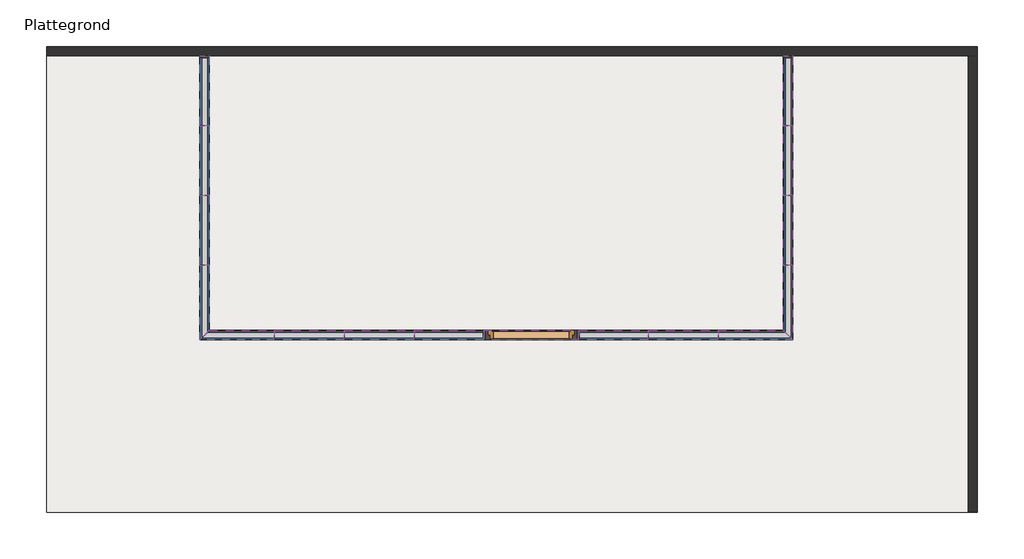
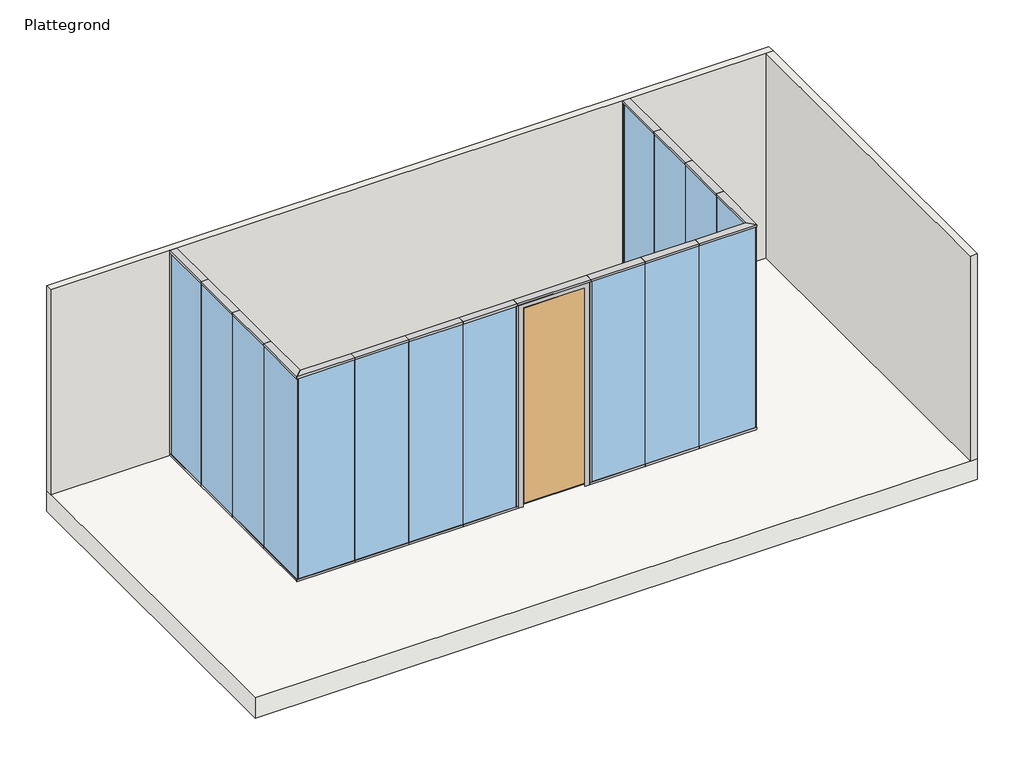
# One storey: 36 members, 30 windows, 2 walls, 1 door, 1 slab.
"""IFC4 building model written with IfcOpenShell, lengths in millimetres."""

from ifc_helpers import new_model, si_unit, frame, origin, origin_with_axes, place, context, project, spatial, polyline, outline, extrude, faceted_brep, transform, mapped, element, save
from components import door_3c762eaf, member_c15710f9, rectangular_mullion_22_im_twin_50_det1_boven_32mm_f8496065, rectangular_mullion_22_im_twin_50_det1_boven_32mm_feee0dc3, rectangular_mullion_22_im_twin_50_det1_boven_32mm_ebdecf88, rectangular_mullion_22_im_twin_50_det1_boven_32mm_71473a51, rectangular_mullion_22_im_twin_50_det2_onder_32mm_36c16b13, rectangular_mullion_22_im_twin_50_det2_onder_32mm_dabcd18b, rectangular_mullion_22_im_twin_50_det2_onder_32mm_cb34f278, rectangular_mullion_22_im_twin_50_mas_22e90203, rectangular_mullion_22_im_twin_50_mas_251ff0a0, rectangular_mullion_22_im_twin_50_mas_sp_229efe52, window_32_im_002_hgs_twin_32_im_002_hgs_twin_26124155, window_32_im_002_hgs_twin_32_im_002_hgs_twin_339a3455, window_32_im_002_hgs_twin_32_im_002_hgs_twin_ac9f17fd, window_32_im_002_hgs_twin_32_im_002_hgs_twin_a99c4260, window_32_im_002_hgs_twin_32_im_002_hgs_twin_18a0c5fa, window_32_im_002_hgs_twin_32_im_002_hgs_twin_0d112f5a, window_32_im_002_hgs_twin_32_im_002_hgs_twin_786c4ea9, window_32_im_002_hgs_twin_32_im_002_hgs_twin_41e00810, window_32_im_002_hgs_twin_32_im_002_hgs_twin_b3315b9b, window_32_im_002_hgs_twin_32_im_002_hgs_twin_9756e7ce, window_32_im_002_hgs_twin_32_im_002_hgs_twin_de3dee43, window_32_im_002_hgs_twin_32_im_002_hgs_twin_07a8b9dd, window_32_im_002_hgs_twin_32_im_002_hgs_twin_58e16ffb, window_32_im_002_hgs_twin_32_im_002_hgs_twin_d93e67b0

model = new_model("IFC4")

# Units and contexts
model_context = context("Model", 3, world=origin())
ifc_project = project(units=[si_unit("LENGTHUNIT", "METRE", prefix="MILLI")], contexts=[model_context])

# Site, building, storey
site = spatial("IfcSite", under=ifc_project)
building = spatial("IfcBuilding", under=site)
storey = spatial("IfcBuildingStorey", under=building, Name="Plattegrond", Elevation=0.0)

# Door
placement = place(None, origin())
door_shape = door_3c762eaf(model_context)
element("IfcDoor", 1, ObjectType="32_IM_deurpaneel_TDG : 32_IM_deurpaneel_TDG_L", at=placement, inside=storey, context=model_context, shape_type="MappedRepresentation", body=[
    mapped(door_shape, transform((5046.9450275, 2127.5863222, 0.0), x_axis=(1.0, 0.0, 0.0), y_axis=(0.0, 1.0, 0.0), z_axis=(0.0, 0.0, 1.0))),
])

# Members
member_shape = member_c15710f9(model_context)
element("IfcMember", 2, ObjectType="32_IM_005_TDG_deurkozijn : 32_IM_005_TDG_deurkozijn", at=placement, inside=storey, context=model_context, shape_type="MappedRepresentation", body=[
    mapped(member_shape, transform((5046.9450275, 2127.5863222, 1489.0), x_axis=(0.0, 0.0, -1.0), y_axis=(1.0, 0.0, 0.0), z_axis=(0.0, -1.0, 0.0))),
])
rectangular_mullion_22_im_twin_50_det1_boven_32mm_shape = rectangular_mullion_22_im_twin_50_det1_boven_32mm_f8496065(model_context)
element("IfcMember", 3, ObjectType="Rectangular Mullion : 22_IM_TWIN_50_DET1_boven_32mm", at=placement, inside=storey, context=model_context, shape_type="MappedRepresentation", body=[
    mapped(rectangular_mullion_22_im_twin_50_det1_boven_32mm_shape, transform((1537.9353409, 3627.5863222, 3000.0), x_axis=(0.0, 0.0, 1.0), y_axis=(-1.0, 0.0, 0.0), z_axis=(0.0, -1.0, 0.0))),
])
element("IfcMember", 4, ObjectType="Rectangular Mullion : 22_IM_TWIN_50_DET1_boven_32mm", at=placement, inside=storey, context=model_context, shape_type="MappedRepresentation", body=[
    mapped(rectangular_mullion_22_im_twin_50_det1_boven_32mm_shape, transform((1537.9353409, 2877.5863222, 3000.0), x_axis=(0.0, 0.0, 1.0), y_axis=(-1.0, 0.0, 0.0), z_axis=(0.0, -1.0, 0.0))),
])
element("IfcMember", 5, ObjectType="Rectangular Mullion : 22_IM_TWIN_50_DET1_boven_32mm", at=placement, inside=storey, context=model_context, shape_type="MappedRepresentation", body=[
    mapped(rectangular_mullion_22_im_twin_50_det1_boven_32mm_shape, transform((3037.9450275, 2127.5863222, 3000.0), x_axis=(0.0, 0.0, 1.0), y_axis=(0.0, -1.0, 0.0), z_axis=(1.0, 0.0, 0.0))),
])
element("IfcMember", 6, ObjectType="Rectangular Mullion : 22_IM_TWIN_50_DET1_boven_32mm", at=placement, inside=storey, context=model_context, shape_type="MappedRepresentation", body=[
    mapped(rectangular_mullion_22_im_twin_50_det1_boven_32mm_shape, transform((3787.9450275, 2127.5863222, 3000.0), x_axis=(0.0, 0.0, 1.0), y_axis=(0.0, -1.0, 0.0), z_axis=(1.0, 0.0, 0.0))),
])
element("IfcMember", 7, ObjectType="Rectangular Mullion : 22_IM_TWIN_50_DET1_boven_32mm", at=placement, inside=storey, context=model_context, shape_type="MappedRepresentation", body=[
    mapped(rectangular_mullion_22_im_twin_50_det1_boven_32mm_shape, transform((7055.9450275, 2127.5863222, 3000.0), x_axis=(0.0, 0.0, 1.0), y_axis=(0.0, -1.0, 0.0), z_axis=(1.0, 0.0, 0.0))),
])
element("IfcMember", 8, ObjectType="Rectangular Mullion : 22_IM_TWIN_50_DET1_boven_32mm", at=placement, inside=storey, context=model_context, shape_type="MappedRepresentation", body=[
    mapped(rectangular_mullion_22_im_twin_50_det1_boven_32mm_shape, transform((7805.9353409, 3627.5863222, 3000.0), x_axis=(0.0, 0.0, 1.0), y_axis=(1.0, 0.0, 0.0), z_axis=(0.0, 1.0, 0.0))),
])
element("IfcMember", 9, ObjectType="Rectangular Mullion : 22_IM_TWIN_50_DET1_boven_32mm", at=placement, inside=storey, context=model_context, shape_type="MappedRepresentation", body=[
    mapped(rectangular_mullion_22_im_twin_50_det1_boven_32mm_shape, transform((7805.9353409, 4377.5863222, 3000.0), x_axis=(0.0, 0.0, 1.0), y_axis=(1.0, 0.0, 0.0), z_axis=(0.0, 1.0, 0.0))),
])
element("IfcMember", 10, ObjectType="Rectangular Mullion : 22_IM_TWIN_50_DET1_boven_32mm", at=placement, inside=storey, context=model_context, shape_type="MappedRepresentation", body=[
    mapped(rectangular_mullion_22_im_twin_50_det1_boven_32mm_shape, transform((1537.9353409, 4377.5863222, 3000.0), x_axis=(0.0, 0.0, 1.0), y_axis=(-1.0, 0.0, 0.0), z_axis=(0.0, -1.0, 0.0))),
])
element("IfcMember", 11, ObjectType="Rectangular Mullion : 22_IM_TWIN_50_DET1_boven_32mm", at=placement, inside=storey, context=model_context, shape_type="MappedRepresentation", body=[
    mapped(rectangular_mullion_22_im_twin_50_det1_boven_32mm_shape, transform((7805.9353409, 5127.5863222, 3000.0), x_axis=(0.0, 0.0, 1.0), y_axis=(1.0, 0.0, 0.0), z_axis=(0.0, 1.0, 0.0))),
])
element("IfcMember", 12, ObjectType="Rectangular Mullion : 22_IM_TWIN_50_DET1_boven_32mm", at=placement, inside=storey, context=model_context, shape_type="MappedRepresentation", body=[
    mapped(rectangular_mullion_22_im_twin_50_det1_boven_32mm_shape, transform((4537.9450275, 2127.5863222, 3000.0), x_axis=(0.0, 0.0, 1.0), y_axis=(0.0, -1.0, 0.0), z_axis=(1.0, 0.0, 0.0))),
])
rectangular_mullion_22_im_twin_50_det1_boven_32mm_2_shape = rectangular_mullion_22_im_twin_50_det1_boven_32mm_feee0dc3(model_context)
element("IfcMember", 13, ObjectType="Rectangular Mullion : 22_IM_TWIN_50_DET1_boven_32mm", at=placement, inside=storey, context=model_context, shape_type="MappedRepresentation", body=[
    mapped(rectangular_mullion_22_im_twin_50_det1_boven_32mm_2_shape, transform((5555.9450275, 2127.5863222, 3000.0), x_axis=(0.0, 0.0, 1.0), y_axis=(0.0, -1.0, 0.0), z_axis=(1.0, 0.0, 0.0))),
])
element("IfcMember", 14, ObjectType="Rectangular Mullion : 22_IM_TWIN_50_DET1_boven_32mm", at=placement, inside=storey, context=model_context, shape_type="MappedRepresentation", body=[
    mapped(rectangular_mullion_22_im_twin_50_det1_boven_32mm_shape, transform((6305.9450275, 2127.5863222, 3000.0), x_axis=(0.0, 0.0, 1.0), y_axis=(0.0, -1.0, 0.0), z_axis=(1.0, 0.0, 0.0))),
])
rectangular_mullion_22_im_twin_50_det1_boven_32mm_3_shape = rectangular_mullion_22_im_twin_50_det1_boven_32mm_ebdecf88(model_context)
element("IfcMember", 15, ObjectType="Rectangular Mullion : 22_IM_TWIN_50_DET1_boven_32mm", at=placement, inside=storey, context=model_context, shape_type="MappedRepresentation", body=[
    mapped(rectangular_mullion_22_im_twin_50_det1_boven_32mm_3_shape, transform((1537.9353409, 2127.5863222, 3000.0), x_axis=(0.0, 0.0, 1.0), y_axis=(-1.0, 0.0, 0.0), z_axis=(0.0, -1.0, 0.0))),
])
element("IfcMember", 16, ObjectType="Rectangular Mullion : 22_IM_TWIN_50_DET1_boven_32mm", at=placement, inside=storey, context=model_context, shape_type="MappedRepresentation", body=[
    mapped(rectangular_mullion_22_im_twin_50_det1_boven_32mm_3_shape, transform((7805.9353409, 2127.5863222, 3000.0), x_axis=(0.0, 0.0, 1.0), y_axis=(0.0, -1.0, 0.0), z_axis=(1.0, 0.0, 0.0))),
])
rectangular_mullion_22_im_twin_50_det1_boven_32mm_4_shape = rectangular_mullion_22_im_twin_50_det1_boven_32mm_71473a51(model_context)
element("IfcMember", 17, ObjectType="Rectangular Mullion : 22_IM_TWIN_50_DET1_boven_32mm", at=placement, inside=storey, context=model_context, shape_type="MappedRepresentation", body=[
    mapped(rectangular_mullion_22_im_twin_50_det1_boven_32mm_4_shape, transform((2287.9450275, 2127.5863222, 3000.0), x_axis=(0.0, 0.0, 1.0), y_axis=(0.0, -1.0, 0.0), z_axis=(1.0, 0.0, 0.0))),
])
element("IfcMember", 18, ObjectType="Rectangular Mullion : 22_IM_TWIN_50_DET1_boven_32mm", at=placement, inside=storey, context=model_context, shape_type="MappedRepresentation", body=[
    mapped(rectangular_mullion_22_im_twin_50_det1_boven_32mm_4_shape, transform((7805.9353409, 2877.5863222, 3000.0), x_axis=(0.0, 0.0, 1.0), y_axis=(1.0, 0.0, 0.0), z_axis=(0.0, 1.0, 0.0))),
])
element("IfcMember", 19, ObjectType="Rectangular Mullion : 22_IM_TWIN_50_DET2_onder_32mm", at=placement, inside=storey, context=model_context, shape_type="MappedRepresentation", body=[
    mapped(rectangular_mullion_22_im_twin_50_det1_boven_32mm_shape, transform((1537.9353409, 4377.5863222, 0.0), x_axis=(0.0, 0.0, -1.0), y_axis=(-1.0, 0.0, 0.0), z_axis=(0.0, 1.0, 0.0))),
])
element("IfcMember", 20, ObjectType="Rectangular Mullion : 22_IM_TWIN_50_DET2_onder_32mm", at=placement, inside=storey, context=model_context, shape_type="MappedRepresentation", body=[
    mapped(rectangular_mullion_22_im_twin_50_det1_boven_32mm_shape, transform((1537.9353409, 3627.5863222, 0.0), x_axis=(0.0, 0.0, -1.0), y_axis=(-1.0, 0.0, 0.0), z_axis=(0.0, 1.0, 0.0))),
])
element("IfcMember", 21, ObjectType="Rectangular Mullion : 22_IM_TWIN_50_DET2_onder_32mm", at=placement, inside=storey, context=model_context, shape_type="MappedRepresentation", body=[
    mapped(rectangular_mullion_22_im_twin_50_det1_boven_32mm_shape, transform((2287.9450275, 2127.5863222, 0.0), x_axis=(0.0, 0.0, -1.0), y_axis=(0.0, -1.0, 0.0), z_axis=(-1.0, 0.0, 0.0))),
])
element("IfcMember", 22, ObjectType="Rectangular Mullion : 22_IM_TWIN_50_DET2_onder_32mm", at=placement, inside=storey, context=model_context, shape_type="MappedRepresentation", body=[
    mapped(rectangular_mullion_22_im_twin_50_det1_boven_32mm_shape, transform((3037.9450275, 2127.5863222, 0.0), x_axis=(0.0, 0.0, -1.0), y_axis=(0.0, -1.0, 0.0), z_axis=(-1.0, 0.0, 0.0))),
])
element("IfcMember", 23, ObjectType="Rectangular Mullion : 22_IM_TWIN_50_DET2_onder_32mm", at=placement, inside=storey, context=model_context, shape_type="MappedRepresentation", body=[
    mapped(rectangular_mullion_22_im_twin_50_det1_boven_32mm_shape, transform((6305.9450275, 2127.5863222, 0.0), x_axis=(0.0, 0.0, -1.0), y_axis=(0.0, -1.0, 0.0), z_axis=(-1.0, 0.0, 0.0))),
])
element("IfcMember", 24, ObjectType="Rectangular Mullion : 22_IM_TWIN_50_DET2_onder_32mm", at=placement, inside=storey, context=model_context, shape_type="MappedRepresentation", body=[
    mapped(rectangular_mullion_22_im_twin_50_det1_boven_32mm_shape, transform((7805.9353409, 2877.5863222, 0.0), x_axis=(0.0, 0.0, -1.0), y_axis=(1.0, 0.0, 0.0), z_axis=(0.0, -1.0, 0.0))),
])
element("IfcMember", 25, ObjectType="Rectangular Mullion : 22_IM_TWIN_50_DET2_onder_32mm", at=placement, inside=storey, context=model_context, shape_type="MappedRepresentation", body=[
    mapped(rectangular_mullion_22_im_twin_50_det1_boven_32mm_shape, transform((7805.9353409, 3627.5863222, 0.0), x_axis=(0.0, 0.0, -1.0), y_axis=(1.0, 0.0, 0.0), z_axis=(0.0, -1.0, 0.0))),
])
element("IfcMember", 26, ObjectType="Rectangular Mullion : 22_IM_TWIN_50_DET2_onder_32mm", at=placement, inside=storey, context=model_context, shape_type="MappedRepresentation", body=[
    mapped(rectangular_mullion_22_im_twin_50_det1_boven_32mm_shape, transform((1537.9353409, 5127.5863222, 0.0), x_axis=(0.0, 0.0, -1.0), y_axis=(-1.0, 0.0, 0.0), z_axis=(0.0, 1.0, 0.0))),
])
element("IfcMember", 27, ObjectType="Rectangular Mullion : 22_IM_TWIN_50_DET2_onder_32mm", at=placement, inside=storey, context=model_context, shape_type="MappedRepresentation", body=[
    mapped(rectangular_mullion_22_im_twin_50_det1_boven_32mm_shape, transform((7805.9353409, 4377.5863222, 0.0), x_axis=(0.0, 0.0, -1.0), y_axis=(1.0, 0.0, 0.0), z_axis=(0.0, -1.0, 0.0))),
])
rectangular_mullion_22_im_twin_50_det2_onder_32mm_shape = rectangular_mullion_22_im_twin_50_det2_onder_32mm_36c16b13(model_context)
element("IfcMember", 28, ObjectType="Rectangular Mullion : 22_IM_TWIN_50_DET2_onder_32mm", at=placement, inside=storey, context=model_context, shape_type="MappedRepresentation", body=[
    mapped(rectangular_mullion_22_im_twin_50_det2_onder_32mm_shape, transform((5539.9450275, 2127.5863222, 0.0), x_axis=(0.0, 0.0, -1.0), y_axis=(0.0, -1.0, 0.0), z_axis=(-1.0, 0.0, 0.0))),
])
element("IfcMember", 29, ObjectType="Rectangular Mullion : 22_IM_TWIN_50_DET2_onder_32mm", at=placement, inside=storey, context=model_context, shape_type="MappedRepresentation", body=[
    mapped(rectangular_mullion_22_im_twin_50_det2_onder_32mm_shape, transform((3787.9450275, 2127.5863222, 0.0), x_axis=(0.0, 0.0, -1.0), y_axis=(0.0, -1.0, 0.0), z_axis=(-1.0, 0.0, 0.0))),
])
rectangular_mullion_22_im_twin_50_det2_onder_32mm_2_shape = rectangular_mullion_22_im_twin_50_det2_onder_32mm_dabcd18b(model_context)
element("IfcMember", 30, ObjectType="Rectangular Mullion : 22_IM_TWIN_50_DET2_onder_32mm", at=placement, inside=storey, context=model_context, shape_type="MappedRepresentation", body=[
    mapped(rectangular_mullion_22_im_twin_50_det2_onder_32mm_2_shape, transform((1537.9353409, 2877.5863222, 0.0), x_axis=(0.0, 0.0, -1.0), y_axis=(-1.0, 0.0, 0.0), z_axis=(0.0, 1.0, 0.0))),
])
element("IfcMember", 31, ObjectType="Rectangular Mullion : 22_IM_TWIN_50_DET2_onder_32mm", at=placement, inside=storey, context=model_context, shape_type="MappedRepresentation", body=[
    mapped(rectangular_mullion_22_im_twin_50_det2_onder_32mm_2_shape, transform((7055.9450275, 2127.5863222, 0.0), x_axis=(0.0, 0.0, -1.0), y_axis=(0.0, -1.0, 0.0), z_axis=(-1.0, 0.0, 0.0))),
])
rectangular_mullion_22_im_twin_50_det2_onder_32mm_3_shape = rectangular_mullion_22_im_twin_50_det2_onder_32mm_cb34f278(model_context)
element("IfcMember", 32, ObjectType="Rectangular Mullion : 22_IM_TWIN_50_DET2_onder_32mm", at=placement, inside=storey, context=model_context, shape_type="MappedRepresentation", body=[
    mapped(rectangular_mullion_22_im_twin_50_det2_onder_32mm_3_shape, transform((1537.9353409, 2127.5863222, 0.0), x_axis=(0.0, 0.0, -1.0), y_axis=(0.0, -1.0, 0.0), z_axis=(-1.0, 0.0, 0.0))),
])
element("IfcMember", 33, ObjectType="Rectangular Mullion : 22_IM_TWIN_50_DET2_onder_32mm", at=placement, inside=storey, context=model_context, shape_type="MappedRepresentation", body=[
    mapped(rectangular_mullion_22_im_twin_50_det2_onder_32mm_3_shape, transform((7805.9353409, 2127.5863222, 0.0), x_axis=(0.0, 0.0, -1.0), y_axis=(1.0, 0.0, 0.0), z_axis=(0.0, -1.0, 0.0))),
])
rectangular_mullion_22_im_twin_50_mas_shape = rectangular_mullion_22_im_twin_50_mas_22e90203(model_context)
element("IfcMember", 34, ObjectType="Rectangular Mullion : 22_IM_TWIN_50_MAS", at=placement, inside=storey, context=model_context, shape_type="MappedRepresentation", body=[
    mapped(rectangular_mullion_22_im_twin_50_mas_shape, transform((1537.9353409, 5127.5863222, 2968.0), x_axis=(0.0, 1.0, 0.0), y_axis=(-1.0, 0.0, 0.0), z_axis=(0.0, 0.0, 1.0))),
])
rectangular_mullion_22_im_twin_50_mas_2_shape = rectangular_mullion_22_im_twin_50_mas_251ff0a0(model_context)
element("IfcMember", 35, ObjectType="Rectangular Mullion : 22_IM_TWIN_50_MAS", at=placement, inside=storey, context=model_context, shape_type="MappedRepresentation", body=[
    mapped(rectangular_mullion_22_im_twin_50_mas_2_shape, transform((5555.9450275, 2127.5863222, 32.0), x_axis=(1.0, 0.0, 0.0), y_axis=(0.0, -1.0, 0.0), z_axis=(0.0, 0.0, -1.0))),
])
element("IfcMember", 36, ObjectType="Rectangular Mullion : 22_IM_TWIN_50_MAS_sp", at=placement, inside=storey, context=model_context, shape_type="MappedRepresentation", body=[
    mapped(rectangular_mullion_22_im_twin_50_mas_shape, transform((7805.9353409, 5127.5863222, 32.0), x_axis=(0.0, 1.0, 0.0), y_axis=(1.0, 0.0, 0.0), z_axis=(0.0, 0.0, -1.0))),
])
rectangular_mullion_22_im_twin_50_mas_sp_shape = rectangular_mullion_22_im_twin_50_mas_sp_229efe52(model_context)
element("IfcMember", 37, ObjectType="Rectangular Mullion : 22_IM_TWIN_50_MAS_sp", at=placement, inside=storey, context=model_context, shape_type="MappedRepresentation", body=[
    mapped(rectangular_mullion_22_im_twin_50_mas_sp_shape, transform((4537.9450275, 2127.5863222, 32.0), x_axis=(1.0, 0.0, 0.0), y_axis=(0.0, -1.0, 0.0), z_axis=(0.0, 0.0, -1.0))),
])

# Slab
element("IfcSlab", 38, ObjectType="23_FL_generiek 300", at=placement, inside=storey, context=model_context, shape_type="SweptSolid", body=[
    extrude(outline(polyline([(9839.9353409, 227.5863222), (-160.0646591, 227.5863222), (-160.0646591, 5227.5863222), (9839.9353409, 5227.5863222), (9839.9353409, 227.5863222)])), frame((0.0, 0.0, -300.0), z_axis=(0.0, 0.0, 1.0), x_axis=(1.0, 0.0, 0.0)), (0.0, 0.0, 1.0), 300.0),
])

# Walls
element("IfcWall", 39, ObjectType="20_WA_ontwerpwand 100", at=placement, inside=storey, context=model_context, shape_type="Brep", body=[
    faceted_brep([(-160.0646591, 5127.5863222, 0.0), (9739.9353409, 5127.5863222, 0.0), (9839.9353409, 5127.5863222, 0.0), (9839.9353409, 5127.5863222, 3000.0), (9739.9353409, 5127.5863222, 3000.0), (-160.0646591, 5127.5863222, 3000.0), (-160.0646591, 5227.5863222, 0.0), (-160.0646591, 5227.5863222, 3000.0), (9839.9353409, 5227.5863222, 3000.0), (9839.9353409, 5227.5863222, 0.0)], [[[0, 1, 2, 3, 4, 5]], [[6, 7, 8, 9]], [[2, 1, 0, 6, 9]], [[5, 4, 3, 8, 7]], [[0, 5, 7, 6]], [[3, 2, 9, 8]]]),
])
element("IfcWall", 40, ObjectType="20_WA_ontwerpwand 100", at=placement, inside=storey, context=model_context, shape_type="SweptSolid", body=[
    extrude(outline(polyline([(9739.9353409, 227.5863222), (9739.9353409, 5127.5863222), (9839.9353409, 5127.5863222), (9839.9353409, 227.5863222), (9739.9353409, 227.5863222)])), origin_with_axes(), (0.0, 0.0, 1.0), 3000.0),
])

# Windows
window_32_im_002_hgs_twin_32_im_002_hgs_twin_shape = window_32_im_002_hgs_twin_32_im_002_hgs_twin_26124155(model_context)
element("IfcWindow", 41, ObjectType="32_IM_002_HGS_TWIN : 32_IM_002_HGS_TWIN", at=placement, inside=storey, context=model_context, shape_type="MappedRepresentation", body=[
    mapped(window_32_im_002_hgs_twin_32_im_002_hgs_twin_shape, transform((1500.0353409, 4002.5863222, 22.0), x_axis=(0.0, -1.0, 0.0), y_axis=(1.0, 0.0, 0.0), z_axis=(0.0, 0.0, 1.0))),
])
element("IfcWindow", 42, ObjectType="32_IM_002_HGS_TWIN : 32_IM_002_HGS_TWIN", at=placement, inside=storey, context=model_context, shape_type="MappedRepresentation", body=[
    mapped(window_32_im_002_hgs_twin_32_im_002_hgs_twin_shape, transform((1500.0353409, 3252.5863222, 22.0), x_axis=(0.0, -1.0, 0.0), y_axis=(1.0, 0.0, 0.0), z_axis=(0.0, 0.0, 1.0))),
])
element("IfcWindow", 43, ObjectType="32_IM_002_HGS_TWIN : 32_IM_002_HGS_TWIN", at=placement, inside=storey, context=model_context, shape_type="MappedRepresentation", body=[
    mapped(window_32_im_002_hgs_twin_32_im_002_hgs_twin_shape, transform((2662.9450275, 2089.6863222, 22.0), x_axis=(1.0, 0.0, 0.0), y_axis=(0.0, 1.0, 0.0), z_axis=(0.0, 0.0, 1.0))),
])
element("IfcWindow", 44, ObjectType="32_IM_002_HGS_TWIN : 32_IM_002_HGS_TWIN", at=placement, inside=storey, context=model_context, shape_type="MappedRepresentation", body=[
    mapped(window_32_im_002_hgs_twin_32_im_002_hgs_twin_shape, transform((3412.9450275, 2089.6863222, 22.0), x_axis=(1.0, 0.0, 0.0), y_axis=(0.0, 1.0, 0.0), z_axis=(0.0, 0.0, 1.0))),
])
element("IfcWindow", 45, ObjectType="32_IM_002_HGS_TWIN : 32_IM_002_HGS_TWIN", at=placement, inside=storey, context=model_context, shape_type="MappedRepresentation", body=[
    mapped(window_32_im_002_hgs_twin_32_im_002_hgs_twin_shape, transform((6680.9450275, 2089.6863222, 22.0), x_axis=(1.0, 0.0, 0.0), y_axis=(0.0, 1.0, 0.0), z_axis=(0.0, 0.0, 1.0))),
])
element("IfcWindow", 46, ObjectType="32_IM_002_HGS_TWIN : 32_IM_002_HGS_TWIN", at=placement, inside=storey, context=model_context, shape_type="MappedRepresentation", body=[
    mapped(window_32_im_002_hgs_twin_32_im_002_hgs_twin_shape, transform((7843.8353409, 3252.5863222, 22.0), x_axis=(0.0, 1.0, 0.0), y_axis=(-1.0, 0.0, 0.0), z_axis=(0.0, 0.0, 1.0))),
])
element("IfcWindow", 47, ObjectType="32_IM_002_HGS_TWIN : 32_IM_002_HGS_TWIN", at=placement, inside=storey, context=model_context, shape_type="MappedRepresentation", body=[
    mapped(window_32_im_002_hgs_twin_32_im_002_hgs_twin_shape, transform((7843.8353409, 4002.5863222, 22.0), x_axis=(0.0, 1.0, 0.0), y_axis=(-1.0, 0.0, 0.0), z_axis=(0.0, 0.0, 1.0))),
])
window_32_im_002_hgs_twin_32_im_002_hgs_twin_2_shape = window_32_im_002_hgs_twin_32_im_002_hgs_twin_339a3455(model_context)
element("IfcWindow", 48, ObjectType="32_IM_002_HGS_TWIN : 32_IM_002_HGS_TWIN", at=placement, inside=storey, context=model_context, shape_type="MappedRepresentation", body=[
    mapped(window_32_im_002_hgs_twin_32_im_002_hgs_twin_2_shape, transform((1574.8353409, 4002.5863222, 22.0), x_axis=(0.0, -1.0, 0.0), y_axis=(1.0, 0.0, 0.0), z_axis=(0.0, 0.0, 1.0))),
])
element("IfcWindow", 49, ObjectType="32_IM_002_HGS_TWIN : 32_IM_002_HGS_TWIN", at=placement, inside=storey, context=model_context, shape_type="MappedRepresentation", body=[
    mapped(window_32_im_002_hgs_twin_32_im_002_hgs_twin_2_shape, transform((1574.8353409, 3252.5863222, 22.0), x_axis=(0.0, -1.0, 0.0), y_axis=(1.0, 0.0, 0.0), z_axis=(0.0, 0.0, 1.0))),
])
element("IfcWindow", 50, ObjectType="32_IM_002_HGS_TWIN : 32_IM_002_HGS_TWIN", at=placement, inside=storey, context=model_context, shape_type="MappedRepresentation", body=[
    mapped(window_32_im_002_hgs_twin_32_im_002_hgs_twin_2_shape, transform((2662.9450275, 2164.4863222, 22.0), x_axis=(1.0, 0.0, 0.0), y_axis=(0.0, 1.0, 0.0), z_axis=(0.0, 0.0, 1.0))),
])
element("IfcWindow", 51, ObjectType="32_IM_002_HGS_TWIN : 32_IM_002_HGS_TWIN", at=placement, inside=storey, context=model_context, shape_type="MappedRepresentation", body=[
    mapped(window_32_im_002_hgs_twin_32_im_002_hgs_twin_2_shape, transform((3412.9450275, 2164.4863222, 22.0), x_axis=(1.0, 0.0, 0.0), y_axis=(0.0, 1.0, 0.0), z_axis=(0.0, 0.0, 1.0))),
])
element("IfcWindow", 52, ObjectType="32_IM_002_HGS_TWIN : 32_IM_002_HGS_TWIN", at=placement, inside=storey, context=model_context, shape_type="MappedRepresentation", body=[
    mapped(window_32_im_002_hgs_twin_32_im_002_hgs_twin_2_shape, transform((6680.9450275, 2164.4863222, 22.0), x_axis=(1.0, 0.0, 0.0), y_axis=(0.0, 1.0, 0.0), z_axis=(0.0, 0.0, 1.0))),
])
element("IfcWindow", 53, ObjectType="32_IM_002_HGS_TWIN : 32_IM_002_HGS_TWIN", at=placement, inside=storey, context=model_context, shape_type="MappedRepresentation", body=[
    mapped(window_32_im_002_hgs_twin_32_im_002_hgs_twin_2_shape, transform((7769.0353409, 3252.5863222, 22.0), x_axis=(0.0, 1.0, 0.0), y_axis=(-1.0, 0.0, 0.0), z_axis=(0.0, 0.0, 1.0))),
])
element("IfcWindow", 54, ObjectType="32_IM_002_HGS_TWIN : 32_IM_002_HGS_TWIN", at=placement, inside=storey, context=model_context, shape_type="MappedRepresentation", body=[
    mapped(window_32_im_002_hgs_twin_32_im_002_hgs_twin_2_shape, transform((7769.0353409, 4002.5863222, 22.0), x_axis=(0.0, 1.0, 0.0), y_axis=(-1.0, 0.0, 0.0), z_axis=(0.0, 0.0, 1.0))),
])
window_32_im_002_hgs_twin_32_im_002_hgs_twin_3_shape = window_32_im_002_hgs_twin_32_im_002_hgs_twin_ac9f17fd(model_context)
element("IfcWindow", 55, ObjectType="32_IM_002_HGS_TWIN : 32_IM_002_HGS_TWIN", at=placement, inside=storey, context=model_context, shape_type="MappedRepresentation", body=[
    mapped(window_32_im_002_hgs_twin_32_im_002_hgs_twin_3_shape, transform((7843.8353409, 4741.5863222, 22.0), x_axis=(0.0, 1.0, 0.0), y_axis=(-1.0, 0.0, 0.0), z_axis=(0.0, 0.0, 1.0))),
])
element("IfcWindow", 56, ObjectType="32_IM_002_HGS_TWIN : 32_IM_002_HGS_TWIN", at=placement, inside=storey, context=model_context, shape_type="MappedRepresentation", body=[
    mapped(window_32_im_002_hgs_twin_32_im_002_hgs_twin_3_shape, transform((1500.0353409, 4741.5863222, 22.0), x_axis=(0.0, -1.0, 0.0), y_axis=(1.0, 0.0, 0.0), z_axis=(0.0, 0.0, 1.0))),
])
window_32_im_002_hgs_twin_32_im_002_hgs_twin_4_shape = window_32_im_002_hgs_twin_32_im_002_hgs_twin_a99c4260(model_context)
element("IfcWindow", 57, ObjectType="32_IM_002_HGS_TWIN : 32_IM_002_HGS_TWIN", at=placement, inside=storey, context=model_context, shape_type="MappedRepresentation", body=[
    mapped(window_32_im_002_hgs_twin_32_im_002_hgs_twin_4_shape, transform((7769.0353409, 4741.5863222, 22.0), x_axis=(0.0, 1.0, 0.0), y_axis=(-1.0, 0.0, 0.0), z_axis=(0.0, 0.0, 1.0))),
])
element("IfcWindow", 58, ObjectType="32_IM_002_HGS_TWIN : 32_IM_002_HGS_TWIN", at=placement, inside=storey, context=model_context, shape_type="MappedRepresentation", body=[
    mapped(window_32_im_002_hgs_twin_32_im_002_hgs_twin_4_shape, transform((1574.8353409, 4741.5863222, 22.0), x_axis=(0.0, -1.0, 0.0), y_axis=(1.0, 0.0, 0.0), z_axis=(0.0, 0.0, 1.0))),
])
window_32_im_002_hgs_twin_32_im_002_hgs_twin_5_shape = window_32_im_002_hgs_twin_32_im_002_hgs_twin_18a0c5fa(model_context)
element("IfcWindow", 59, ObjectType="32_IM_002_HGS_TWIN : 32_IM_002_HGS_TWIN", at=placement, inside=storey, context=model_context, shape_type="MappedRepresentation", body=[
    mapped(window_32_im_002_hgs_twin_32_im_002_hgs_twin_5_shape, transform((1500.0353409, 2480.4363222, 22.0), x_axis=(0.0, -1.0, 0.0), y_axis=(1.0, 0.0, 0.0), z_axis=(0.0, 0.0, 1.0))),
])
window_32_im_002_hgs_twin_32_im_002_hgs_twin_6_shape = window_32_im_002_hgs_twin_32_im_002_hgs_twin_0d112f5a(model_context)
element("IfcWindow", 60, ObjectType="32_IM_002_HGS_TWIN : 32_IM_002_HGS_TWIN", at=placement, inside=storey, context=model_context, shape_type="MappedRepresentation", body=[
    mapped(window_32_im_002_hgs_twin_32_im_002_hgs_twin_6_shape, transform((1574.8353409, 2518.3363222, 22.0), x_axis=(0.0, -1.0, 0.0), y_axis=(1.0, 0.0, 0.0), z_axis=(0.0, 0.0, 1.0))),
])
window_32_im_002_hgs_twin_32_im_002_hgs_twin_7_shape = window_32_im_002_hgs_twin_32_im_002_hgs_twin_786c4ea9(model_context)
element("IfcWindow", 61, ObjectType="32_IM_002_HGS_TWIN : 32_IM_002_HGS_TWIN", at=placement, inside=storey, context=model_context, shape_type="MappedRepresentation", body=[
    mapped(window_32_im_002_hgs_twin_32_im_002_hgs_twin_7_shape, transform((4159.9450275, 2089.6863222, 22.0), x_axis=(1.0, 0.0, 0.0), y_axis=(0.0, 1.0, 0.0), z_axis=(0.0, 0.0, 1.0))),
])
element("IfcWindow", 62, ObjectType="32_IM_002_HGS_TWIN : 32_IM_002_HGS_TWIN", at=placement, inside=storey, context=model_context, shape_type="MappedRepresentation", body=[
    mapped(window_32_im_002_hgs_twin_32_im_002_hgs_twin_7_shape, transform((5933.9450275, 2089.6863222, 22.0), x_axis=(1.0, 0.0, 0.0), y_axis=(0.0, 1.0, 0.0), z_axis=(0.0, 0.0, 1.0))),
])
window_32_im_002_hgs_twin_32_im_002_hgs_twin_8_shape = window_32_im_002_hgs_twin_32_im_002_hgs_twin_41e00810(model_context)
element("IfcWindow", 63, ObjectType="32_IM_002_HGS_TWIN : 32_IM_002_HGS_TWIN", at=placement, inside=storey, context=model_context, shape_type="MappedRepresentation", body=[
    mapped(window_32_im_002_hgs_twin_32_im_002_hgs_twin_8_shape, transform((4159.9450275, 2164.4863222, 22.0), x_axis=(1.0, 0.0, 0.0), y_axis=(0.0, 1.0, 0.0), z_axis=(0.0, 0.0, 1.0))),
])
element("IfcWindow", 64, ObjectType="32_IM_002_HGS_TWIN : 32_IM_002_HGS_TWIN", at=placement, inside=storey, context=model_context, shape_type="MappedRepresentation", body=[
    mapped(window_32_im_002_hgs_twin_32_im_002_hgs_twin_8_shape, transform((5933.9450275, 2164.4863222, 22.0), x_axis=(1.0, 0.0, 0.0), y_axis=(0.0, 1.0, 0.0), z_axis=(0.0, 0.0, 1.0))),
])
window_32_im_002_hgs_twin_32_im_002_hgs_twin_9_shape = window_32_im_002_hgs_twin_32_im_002_hgs_twin_b3315b9b(model_context)
element("IfcWindow", 65, ObjectType="32_IM_002_HGS_TWIN : 32_IM_002_HGS_TWIN", at=placement, inside=storey, context=model_context, shape_type="MappedRepresentation", body=[
    mapped(window_32_im_002_hgs_twin_32_im_002_hgs_twin_9_shape, transform((7843.8353409, 2480.4363222, 22.0), x_axis=(0.0, -1.0, 0.0), y_axis=(1.0, 0.0, 0.0), z_axis=(0.0, 0.0, 1.0))),
])
window_32_im_002_hgs_twin_32_im_002_hgs_twin_10_shape = window_32_im_002_hgs_twin_32_im_002_hgs_twin_9756e7ce(model_context)
element("IfcWindow", 66, ObjectType="32_IM_002_HGS_TWIN : 32_IM_002_HGS_TWIN", at=placement, inside=storey, context=model_context, shape_type="MappedRepresentation", body=[
    mapped(window_32_im_002_hgs_twin_32_im_002_hgs_twin_10_shape, transform((7769.0353409, 2518.3363222, 22.0), x_axis=(0.0, -1.0, 0.0), y_axis=(1.0, 0.0, 0.0), z_axis=(0.0, 0.0, 1.0))),
])
window_32_im_002_hgs_twin_32_im_002_hgs_twin_11_shape = window_32_im_002_hgs_twin_32_im_002_hgs_twin_de3dee43(model_context)
element("IfcWindow", 67, ObjectType="32_IM_002_HGS_TWIN : 32_IM_002_HGS_TWIN", at=placement, inside=storey, context=model_context, shape_type="MappedRepresentation", body=[
    mapped(window_32_im_002_hgs_twin_32_im_002_hgs_twin_11_shape, transform((7446.6901842, 2089.6863222, 22.0), x_axis=(1.0, 0.0, 0.0), y_axis=(0.0, 1.0, 0.0), z_axis=(0.0, 0.0, 1.0))),
])
window_32_im_002_hgs_twin_32_im_002_hgs_twin_12_shape = window_32_im_002_hgs_twin_32_im_002_hgs_twin_07a8b9dd(model_context)
element("IfcWindow", 68, ObjectType="32_IM_002_HGS_TWIN : 32_IM_002_HGS_TWIN", at=placement, inside=storey, context=model_context, shape_type="MappedRepresentation", body=[
    mapped(window_32_im_002_hgs_twin_32_im_002_hgs_twin_12_shape, transform((7409.7901842, 2164.4863222, 22.0), x_axis=(1.0, 0.0, 0.0), y_axis=(0.0, 1.0, 0.0), z_axis=(0.0, 0.0, 1.0))),
])
window_32_im_002_hgs_twin_32_im_002_hgs_twin_13_shape = window_32_im_002_hgs_twin_32_im_002_hgs_twin_58e16ffb(model_context)
element("IfcWindow", 69, ObjectType="32_IM_002_HGS_TWIN : 32_IM_002_HGS_TWIN", at=placement, inside=storey, context=model_context, shape_type="MappedRepresentation", body=[
    mapped(window_32_im_002_hgs_twin_32_im_002_hgs_twin_13_shape, transform((1897.1901842, 2089.6863222, 22.0), x_axis=(-1.0, 0.0, 0.0), y_axis=(0.0, -1.0, 0.0), z_axis=(0.0, 0.0, 1.0))),
])
window_32_im_002_hgs_twin_32_im_002_hgs_twin_14_shape = window_32_im_002_hgs_twin_32_im_002_hgs_twin_d93e67b0(model_context)
element("IfcWindow", 70, ObjectType="32_IM_002_HGS_TWIN : 32_IM_002_HGS_TWIN", at=placement, inside=storey, context=model_context, shape_type="MappedRepresentation", body=[
    mapped(window_32_im_002_hgs_twin_32_im_002_hgs_twin_14_shape, transform((1934.0901842, 2164.4863222, 22.0), x_axis=(-1.0, 0.0, 0.0), y_axis=(0.0, -1.0, 0.0), z_axis=(0.0, 0.0, 1.0))),
])

save(model, "model.ifc")
